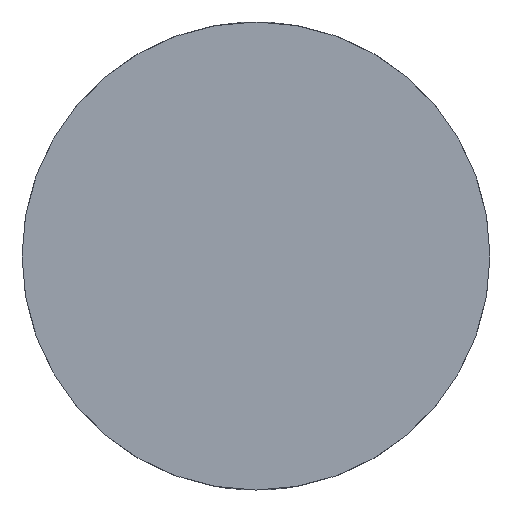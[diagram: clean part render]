
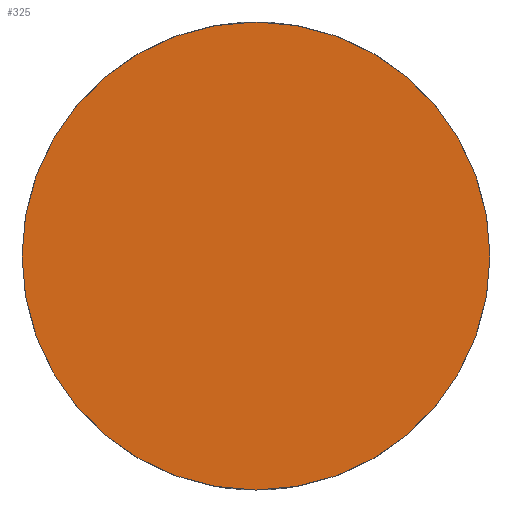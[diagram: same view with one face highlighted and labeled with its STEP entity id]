
A CAD part, left-side view. The second image highlights one B-rep face of the part: STEP entity #325.
In plain terms, the highlighted planar face has unit normal (-1, 0, 0).
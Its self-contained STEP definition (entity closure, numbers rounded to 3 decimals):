
#21 = EDGE_CURVE('',#22,#22,#24,.T.);
#22 = VERTEX_POINT('',#23);
#23 = CARTESIAN_POINT('',(39.55,5.,-1.));
#24 = SURFACE_CURVE('',#25,(#30,#42),.PCURVE_S1.);
#25 = CIRCLE('',#26,1.);
#26 = AXIS2_PLACEMENT_3D('',#27,#28,#29);
#27 = CARTESIAN_POINT('',(39.55,5.,0.));
#28 = DIRECTION('',(1.,-0.,0.));
#29 = DIRECTION('',(0.,0.,-1.));
#30 = PCURVE('',#31,#36);
#31 = CYLINDRICAL_SURFACE('',#32,1.);
#32 = AXIS2_PLACEMENT_3D('',#33,#34,#35);
#33 = CARTESIAN_POINT('',(39.55,5.,0.));
#34 = DIRECTION('',(-1.,-0.,0.));
#35 = DIRECTION('',(0.,0.,-1.));
#36 = DEFINITIONAL_REPRESENTATION('',(#37),#41);
#37 = LINE('',#38,#39);
#38 = CARTESIAN_POINT('',(-0.,0.));
#39 = VECTOR('',#40,1.);
#40 = DIRECTION('',(-1.,0.));
#41 = ( GEOMETRIC_REPRESENTATION_CONTEXT(2) 
PARAMETRIC_REPRESENTATION_CONTEXT() REPRESENTATION_CONTEXT('2D SPACE',''
  ) );
#42 = PCURVE('',#43,#48);
#43 = PLANE('',#44);
#44 = AXIS2_PLACEMENT_3D('',#45,#46,#47);
#45 = CARTESIAN_POINT('',(39.55,5.,0.));
#46 = DIRECTION('',(1.,0.,0.));
#47 = DIRECTION('',(0.,0.,-1.));
#48 = DEFINITIONAL_REPRESENTATION('',(#49),#53);
#49 = CIRCLE('',#50,1.);
#50 = AXIS2_PLACEMENT_2D('',#51,#52);
#51 = CARTESIAN_POINT('',(0.,0.));
#52 = DIRECTION('',(1.,0.));
#53 = ( GEOMETRIC_REPRESENTATION_CONTEXT(2) 
PARAMETRIC_REPRESENTATION_CONTEXT() REPRESENTATION_CONTEXT('2D SPACE',''
  ) );
#325 = ADVANCED_FACE('',(#326),#43,.F.);
#326 = FACE_BOUND('',#327,.F.);
#327 = EDGE_LOOP('',(#328));
#328 = ORIENTED_EDGE('',*,*,#21,.T.);
